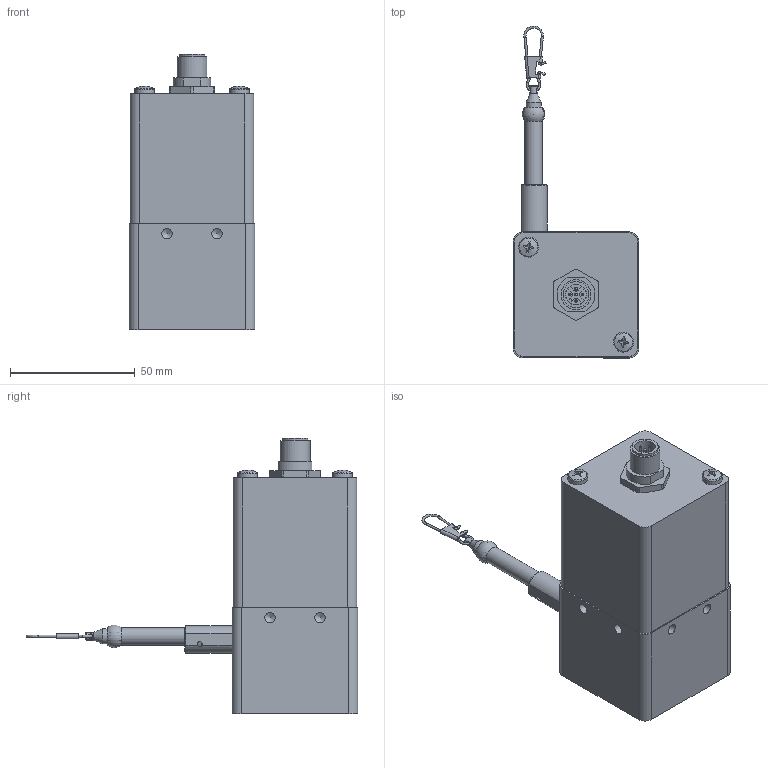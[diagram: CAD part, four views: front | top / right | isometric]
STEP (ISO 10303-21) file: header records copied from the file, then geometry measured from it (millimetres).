
FILE_DESCRIPTION(/* description */ (''),/* implementation_level */ '2;1');
FILE_NAME(/* name */ 'C:\Users\Kamp\Desktop\WS10ZG 500!1000!1250 SB0.stp',/* time_stamp */ '2021-06-08T16:45:56+02:00',/* author */ ('kamp'),/* organization */ (''),/* preprocessor_version */ 'ST-DEVELOPER v15.6',/* originating_system */ 'Autodesk Inventor 2015',/* authorisation */ '');
FILE_SCHEMA (('CONFIG_CONTROL_DESIGN'));
Length unit declared in the file: centimetre
Products named in the file (1): WS10ZG 500!1000!1250 SB0
Bounding box: 50.35 x 132.8 x 110.4 mm (x, y, z)
Volume: 238604.5 mm3; surface area: 27544.5 mm2
Topology: 1 solids, 1 shells, 290 faces, 770 edges, 502 vertices
Faces by surface type: plane 162, cylinder 71, bspline 32, cone 10, torus 9, sphere 6
Full cylindrical faces by diameter (mm): 0.8 x1, 0.9 x7, 1 x5, 1.5 x1, 2 x2, 3 x1, 4.134 x4, 6 x1, 7 x1, 8 x2, 8.3 x1, 8.5 x2, 10 x2, 10.4 x1, 12 x1
Entity records: 10989 total; most frequent: CARTESIAN_POINT 4085, ORIENTED_EDGE 1368, DIRECTION 1244, EDGE_CURVE 682, VERTEX_POINT 471, AXIS2_PLACEMENT_3D 426, LINE 392, VECTOR 392
